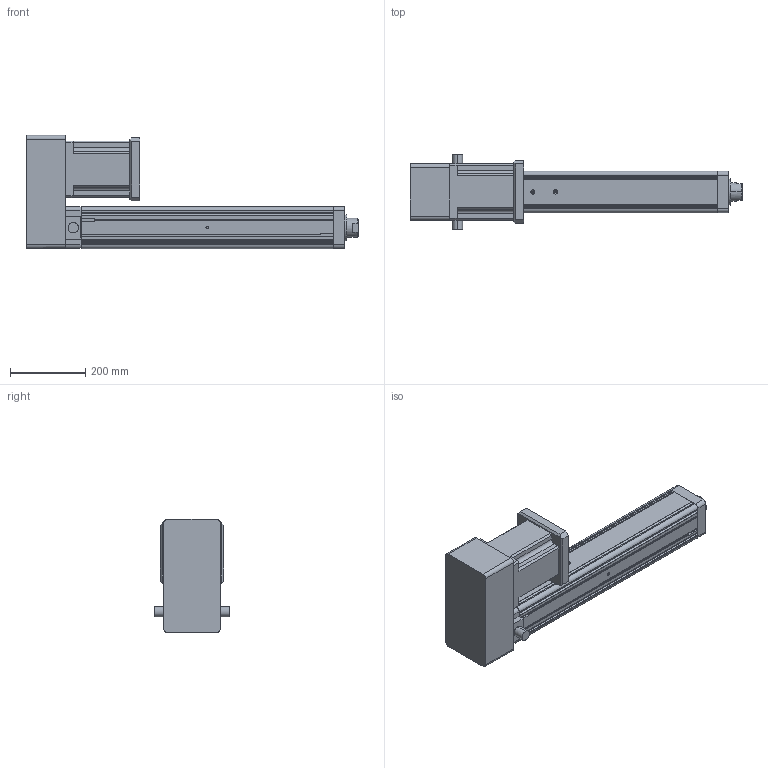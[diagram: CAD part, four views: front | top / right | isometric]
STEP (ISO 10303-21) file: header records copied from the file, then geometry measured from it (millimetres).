
FILE_DESCRIPTION (( 'STEP AP203' ), '1' );
FILE_NAME ('YRJ110-L500-H4K2.STEP', '2020-01-06T01:17:48', ( 'User' ), ( 'China' ), 'SwSTEP 2.0', 'SolidWorks 2016', '' );
FILE_SCHEMA (( 'CONFIG_CONTROL_DESIGN' ));
Length unit declared in the file: millimetre
Products named in the file (7): 095-100俴最倰第; K2-110; H5-110-2; 萇儂碟-110; YRJ110-L500-H4K2; H5-110-1; 142熬厒儂
Assembly tree (6 placements, depth 2):
  YRJ110-L500-H4K2
    095-100俴最倰第
    142熬厒儂
    H5-110-1
    H5-110-2
    萇儂碟-110
    K2-110
Bounding box: 881 x 200 x 300.5 mm (x, y, z)
Volume: 12550263.6 mm3; surface area: 1069679.7 mm2
Topology: 6 solids, 6 shells, 311 faces, 850 edges, 549 vertices
Faces by surface type: plane 174, cylinder 110, cone 27
Entity records: 10800 total; most frequent: CARTESIAN_POINT 2043, DIRECTION 1687, ORIENTED_EDGE 1668, EDGE_CURVE 834, LINE 577, VECTOR 577, AXIS2_PLACEMENT_3D 555, VERTEX_POINT 549
